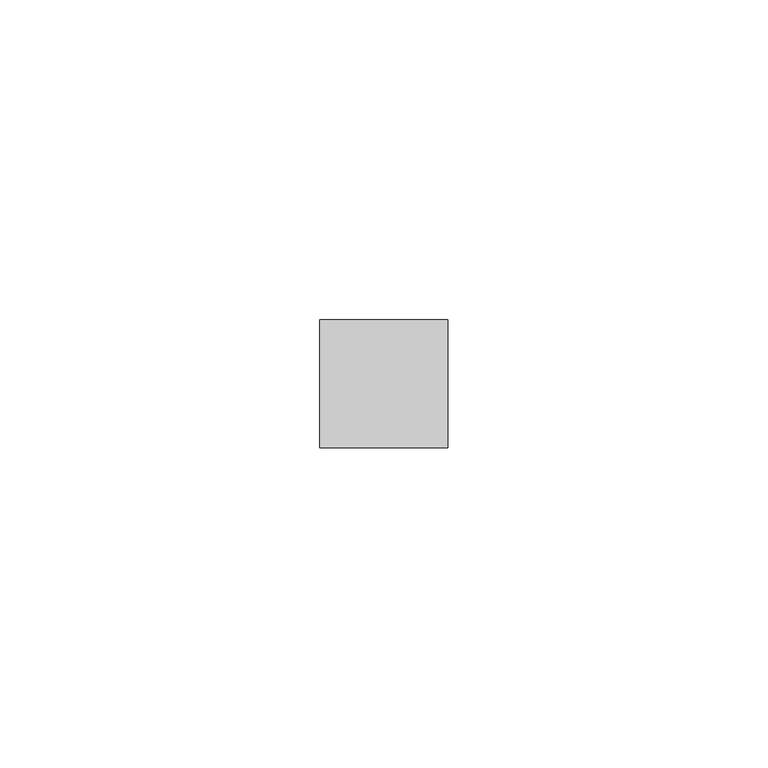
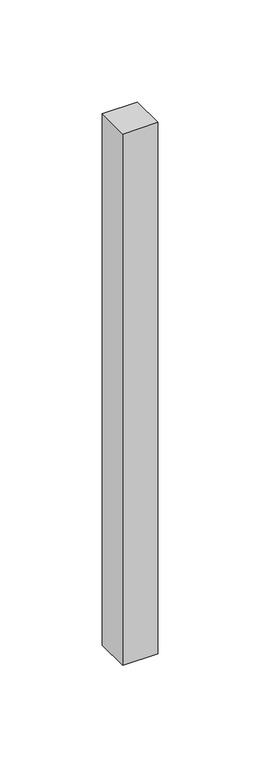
"""IFC4 building model written with IfcOpenShell, lengths in millimetres: member geometry, 矩形竖梃 : 20mm 正方形."""

import ifcopenshell
import ifcopenshell.guid

model = None  # the IFC model being written
_history = None  # IfcOwnerHistory: only IFC2X3 demands one
_inside = {}  # id of a spatial element -> (the spatial element, [elements in it])
_under = {}  # id of a project, library or spatial element -> (it, [spatial elements below it])
_declared = {}  # id of a project -> (the project, [libraries it declares])
_typed = {}  # id of a type object -> (the type object, [elements of that type])
_made_of = {}  # id of a material, layer set ... -> (it, [elements and type objects made of it])


def new_model(schema):
    """Start an empty IFC model of exactly this schema.

    Asked for "IFC4X3", IfcOpenShell would pick the latest addendum, in which some entities
    have other attributes; the version numbers below select the first issue.
    IFC2X3 requires an IfcOwnerHistory on every rooted entity: one is made here for all.
    """
    global model, _history
    if schema == "IFC4X3":
        model = ifcopenshell.file(schema_version=(4, 3, 0, 0))
    else:
        model = ifcopenshell.file(schema=schema)
    _inside.clear()
    _under.clear()
    _declared.clear()
    _typed.clear()
    _made_of.clear()
    _history = None
    if model.schema == "IFC2X3":
        org = make("IfcOrganization", Name="unknown")
        user = make(
            "IfcPersonAndOrganization",
            ThePerson=make("IfcPerson", FamilyName="unknown"),
            TheOrganization=org,
        )
        app = make(
            "IfcApplication",
            ApplicationDeveloper=org,
            Version="unknown",
            ApplicationFullName="unknown",
            ApplicationIdentifier="unknown",
        )
        _history = make(
            "IfcOwnerHistory",
            OwningUser=user,
            OwningApplication=app,
            ChangeAction="ADDED",
            CreationDate=0,
        )
    return model


def make(cls, **values):
    """One entity of the class cls with the attributes given. An attribute that is None is left unset."""
    return model.create_entity(
        cls, **{name: value for name, value in values.items() if value is not None}
    )


def rooted(cls, **values):
    """An entity with a GlobalId (a new one), such as an element, a storey or a relation."""
    return make(cls, GlobalId=ifcopenshell.guid.new(), OwnerHistory=_history, **values)


def si_unit(unit_type, name, prefix=None):
    """IfcSIUnit, for example si_unit("LENGTHUNIT", "METRE", prefix="MILLI")."""
    return make("IfcSIUnit", UnitType=unit_type, Prefix=prefix, Name=name)


def assignment(units):
    """IfcUnitAssignment: the units of a project."""
    return None if units is None else make("IfcUnitAssignment", Units=units)


def point(xyz):
    """IfcCartesianPoint."""
    return None if xyz is None else make("IfcCartesianPoint", Coordinates=xyz)


def direction(xyz):
    """IfcDirection."""
    return None if xyz is None else make("IfcDirection", DirectionRatios=xyz)


def frame(location, z_axis=None, x_axis=None):
    """IfcAxis2Placement3D, a coordinate frame: its origin and axes. An axis left out is left unset."""
    return make(
        "IfcAxis2Placement3D",
        Location=point(location),
        Axis=direction(z_axis),
        RefDirection=direction(x_axis),
    )


def origin():
    """The frame at (0, 0, 0) with its axes left unset."""
    return frame((0.0, 0.0, 0.0))


def place(relative_to, where):
    """IfcLocalPlacement: puts the frame where relative to a parent placement (None: the world)."""
    return make(
        "IfcLocalPlacement", PlacementRelTo=relative_to, RelativePlacement=where
    )


def context(
    kind, dimensions, precision=None, world=None, true_north=None, identifier=None
):
    """IfcGeometricRepresentationContext, for example the 3D "Model" context."""
    return make(
        "IfcGeometricRepresentationContext",
        ContextIdentifier=identifier,
        ContextType=kind,
        CoordinateSpaceDimension=dimensions,
        Precision=precision,
        WorldCoordinateSystem=world,
        TrueNorth=true_north,
    )


def project(units=None, contexts=None):
    """IfcProject with its units and contexts."""
    return rooted(
        "IfcProject",
        Name="project",
        RepresentationContexts=contexts,
        UnitsInContext=assignment(units),
    )


def spatial(cls, under=None, at=None, **own):
    """A site, building, storey or space (cls), placed at a placement, below another one or the project."""
    s = rooted(cls, ObjectPlacement=at, **own)
    if under is not None:
        _under.setdefault(under.id(), (under, []))[1].append(s)
    return s


def polyline(points):
    """IfcPolyline through the points."""
    return make("IfcPolyline", Points=[point(p) for p in points])


def outline(outer, holes=None, kind="AREA"):
    """IfcArbitraryClosedProfileDef: a profile drawn as a closed curve; with holes, ...WithVoids."""
    if holes is None:
        return make("IfcArbitraryClosedProfileDef", ProfileType=kind, OuterCurve=outer)
    return make(
        "IfcArbitraryProfileDefWithVoids",
        ProfileType=kind,
        OuterCurve=outer,
        InnerCurves=holes,
    )


def extrude(swept, where, along, depth):
    """IfcExtrudedAreaSolid: the profile swept, set in the frame where, extruded along a direction by depth."""
    return make(
        "IfcExtrudedAreaSolid",
        SweptArea=swept,
        Position=where,
        ExtrudedDirection=direction(along),
        Depth=depth,
    )


def shape(context_of_items, identifier, shape_type, items):
    """IfcShapeRepresentation: the items that make up one representation, for example the "Body"."""
    return make(
        "IfcShapeRepresentation",
        ContextOfItems=context_of_items,
        RepresentationIdentifier=identifier,
        RepresentationType=shape_type,
        Items=items,
    )


def source(mapping_origin, context_of_items, identifier, shape_type, items):
    """IfcRepresentationMap: a shape defined once, which mapped items show again and again."""
    return make(
        "IfcRepresentationMap",
        MappingOrigin=mapping_origin,
        MappedRepresentation=shape(context_of_items, identifier, shape_type, items),
    )


def transform(
    local_origin,
    x_axis=None,
    y_axis=None,
    z_axis=None,
    scale=None,
    scale2=None,
    scale3=None,
    uniform=True,
):
    """IfcCartesianTransformationOperator3D, or its non-uniform kind. x_axis, y_axis, z_axis: its Axis1, 2, 3."""
    if uniform:
        return make(
            "IfcCartesianTransformationOperator3D",
            Axis1=direction(x_axis),
            Axis2=direction(y_axis),
            LocalOrigin=point(local_origin),
            Scale=scale,
            Axis3=direction(z_axis),
        )
    return make(
        "IfcCartesianTransformationOperator3DnonUniform",
        Axis1=direction(x_axis),
        Axis2=direction(y_axis),
        LocalOrigin=point(local_origin),
        Scale=scale,
        Axis3=direction(z_axis),
        Scale2=scale2,
        Scale3=scale3,
    )


def mapped(mapping_source, mapping_target):
    """IfcMappedItem: shows the shape of a source again, moved by a transform."""
    return make(
        "IfcMappedItem", MappingSource=mapping_source, MappingTarget=mapping_target
    )


def made_of(thing, what):
    """Note that an element or type object is made of a material, layer set ...; save() writes the relation."""
    if what is not None:
        _made_of.setdefault(what.id(), (what, []))[1].append(thing)
    return thing


def element(
    cls,
    number,
    at=None,
    inside=None,
    cuts=None,
    type_object=None,
    material=None,
    context=None,
    identifier="Body",
    shape_type=None,
    held_by="IfcProductDefinitionShape",
    body=None,
    shapes=None,
    **own,
):
    """One element of the class cls, such as IfcWall. Its Tag is "e" and its number.

    at: its placement. inside: the storey or other place that contains it. cuts: it is an
    opening in that element (IfcRelVoidsElement). A single representation is given by context,
    identifier, shape_type and body (its items); several are given by shapes. held_by: the class
    of the entity that holds the representations. save() writes the other relations.
    """
    e = rooted(cls, Tag="e%d" % number, ObjectPlacement=at, **own)
    if body is not None:
        shapes = [shape(context, identifier, shape_type, body)]
    if shapes is not None:
        e.Representation = make(held_by, Representations=shapes)
    if inside is not None:
        _inside.setdefault(inside.id(), (inside, []))[1].append(e)
    if cuts is not None:
        rooted(
            "IfcRelVoidsElement", RelatingBuildingElement=cuts, RelatedOpeningElement=e
        )
    if type_object is not None:
        _typed.setdefault(type_object.id(), (type_object, []))[1].append(e)
    return made_of(e, material)


def aggregate(whole, parts):
    """IfcRelAggregates: a whole, such as a stair, and the parts it consists of."""
    return rooted("IfcRelAggregates", RelatingObject=whole, RelatedObjects=parts)


def save(model, path):
    """Write the relations noted so far, then the file.

    IfcRelAggregates (storeys below a building ...), IfcRelContainedInSpatialStructure (elements
    in a storey), IfcRelDefinesByType, IfcRelAssociatesMaterial and IfcRelDeclares: one each for
    every whole, place, type object, material and project.
    """
    for whole, parts in _under.values():
        aggregate(whole, parts)
    for where, things in _inside.values():
        rooted(
            "IfcRelContainedInSpatialStructure",
            RelatedElements=things,
            RelatingStructure=where,
        )
    for kind, things in _typed.values():
        rooted("IfcRelDefinesByType", RelatedObjects=things, RelatingType=kind)
    for what, things in _made_of.values():
        rooted("IfcRelAssociatesMaterial", RelatedObjects=things, RelatingMaterial=what)
    for by, libraries in _declared.values():
        rooted("IfcRelDeclares", RelatingContext=by, RelatedDefinitions=libraries)
    model.write(path)


def member_5749b9c8(model_context):
    return source(origin(), model_context, "Body", "SweptSolid", [
        extrude(outline(polyline([(0.0, 10.0), (0.0, -10.0), (-20.0, -10.0), (-20.0, 10.0), (0.0, 10.0)])), frame((0.0, 0.0, -318.0), z_axis=(0.0, 0.0, 1.0), x_axis=(1.0, 0.0, 0.0)), (0.0, 0.0, 1.0), 318.0),
    ])


if __name__ == "__main__":
    model = new_model("IFC4")
    model_context = context("Model", 3, world=origin())
    ifc_project = project(units=[si_unit("LENGTHUNIT", "METRE", prefix="MILLI")], contexts=[model_context])
    site = spatial("IfcSite", under=ifc_project)
    building = spatial("IfcBuilding", under=site)
    placement = place(None, origin())
    member_shape = member_5749b9c8(model_context)
    element("IfcMember", 1, ObjectType="矩形竖梃 : 20mm 正方形", at=placement, inside=building, context=model_context, shape_type="MappedRepresentation", body=[
        mapped(member_shape, transform((0.0, 0.0, 0.0), x_axis=(1.0, 0.0, 0.0), y_axis=(0.0, 1.0, 0.0), z_axis=(0.0, 0.0, 1.0))),
    ])
    save(model, "model.ifc")
